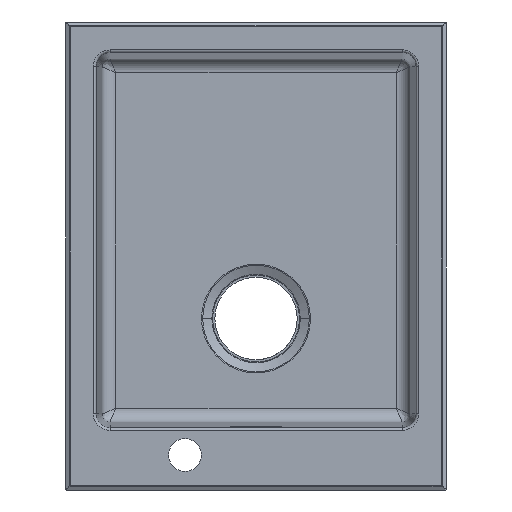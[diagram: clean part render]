
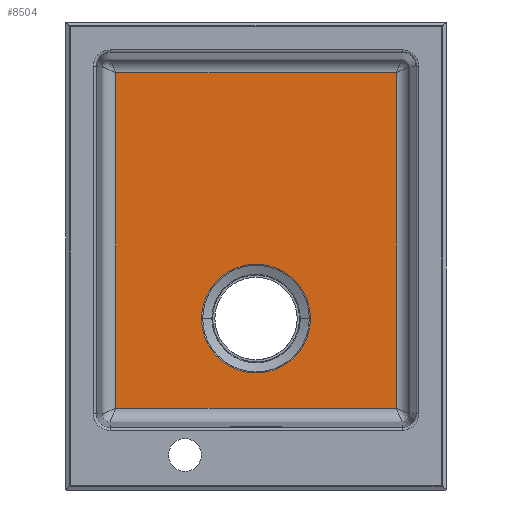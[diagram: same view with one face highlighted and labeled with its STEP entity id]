
A CAD part, top view. The second image highlights one B-rep face of the part: STEP entity #8504.
In plain terms, the highlighted planar face has unit normal (0, 0, 1).
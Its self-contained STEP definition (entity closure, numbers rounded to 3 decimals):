
#7619=CARTESIAN_POINT('Vertex',(-149.705,412.629,-194.1)) ;
#7807=CARTESIAN_POINT('Vertex',(149.705,412.629,-194.1)) ;
#7988=CARTESIAN_POINT('Vertex',(-149.705,54.219,-194.1)) ;
#8142=CARTESIAN_POINT('Vertex',(149.705,54.219,-194.1)) ;
#8256=CARTESIAN_POINT('Line Origine',(-149.705,233.424,-194.1)) ;
#8273=CARTESIAN_POINT('Line Origine',(0.,412.629,-194.1)) ;
#8290=CARTESIAN_POINT('Line Origine',(149.705,233.424,-194.1)) ;
#8307=CARTESIAN_POINT('Line Origine',(0.,54.219,-194.1)) ;
#8412=CARTESIAN_POINT('Axis2P3D Location',(-156.,32.924,-194.1)) ;
#8424=CARTESIAN_POINT('Control Point',(58.143,150.022,-194.1)) ;
#8425=CARTESIAN_POINT('Control Point',(58.143,149.448,-194.1)) ;
#8426=CARTESIAN_POINT('Control Point',(58.136,148.877,-194.1)) ;
#8427=CARTESIAN_POINT('Control Point',(58.122,148.302,-194.1)) ;
#8428=CARTESIAN_POINT('Control Point',(58.007,145.197,-194.1)) ;
#8429=CARTESIAN_POINT('Control Point',(57.685,142.101,-194.1)) ;
#8430=CARTESIAN_POINT('Control Point',(57.284,139.594,-194.1)) ;
#8431=CARTESIAN_POINT('Control Point',(56.091,134.072,-194.1)) ;
#8432=CARTESIAN_POINT('Control Point',(54.238,128.731,-194.1)) ;
#8433=CARTESIAN_POINT('Control Point',(53.023,125.862,-194.1)) ;
#8434=CARTESIAN_POINT('Control Point',(49.071,118.037,-194.1)) ;
#8435=CARTESIAN_POINT('Control Point',(43.703,111.05,-194.1)) ;
#8436=CARTESIAN_POINT('Control Point',(39.71,106.988,-194.1)) ;
#8437=CARTESIAN_POINT('Control Point',(30.816,99.912,-194.1)) ;
#8438=CARTESIAN_POINT('Control Point',(20.488,95.168,-194.1)) ;
#8439=CARTESIAN_POINT('Control Point',(15.061,93.436,-194.1)) ;
#8440=CARTESIAN_POINT('Control Point',(3.895,91.324,-194.1)) ;
#8441=CARTESIAN_POINT('Control Point',(-7.45,91.942,-194.1)) ;
#8442=CARTESIAN_POINT('Control Point',(-13.058,92.941,-194.1)) ;
#8443=CARTESIAN_POINT('Control Point',(-23.921,96.279,-194.1)) ;
#8444=CARTESIAN_POINT('Control Point',(-33.673,102.117,-194.1)) ;
#8445=CARTESIAN_POINT('Control Point',(-38.168,105.615,-194.1)) ;
#8446=CARTESIAN_POINT('Control Point',(-44.963,112.38,-194.1)) ;
#8447=CARTESIAN_POINT('Control Point',(-50.227,120.349,-194.1)) ;
#8448=CARTESIAN_POINT('Control Point',(-52.095,123.767,-194.1)) ;
#8449=CARTESIAN_POINT('Control Point',(-54.457,129.104,-194.1)) ;
#8450=CARTESIAN_POINT('Control Point',(-56.132,134.68,-194.1)) ;
#8451=CARTESIAN_POINT('Control Point',(-56.613,136.561,-194.1)) ;
#8452=CARTESIAN_POINT('Control Point',(-57.215,139.409,-194.1)) ;
#8453=CARTESIAN_POINT('Control Point',(-57.638,142.287,-194.1)) ;
#8454=CARTESIAN_POINT('Control Point',(-57.759,143.249,-194.1)) ;
#8455=CARTESIAN_POINT('Control Point',(-57.961,145.178,-194.1)) ;
#8456=CARTESIAN_POINT('Control Point',(-58.082,147.114,-194.1)) ;
#8457=CARTESIAN_POINT('Control Point',(-58.123,148.082,-194.1)) ;
#8458=CARTESIAN_POINT('Control Point',(-58.143,149.052,-194.1)) ;
#8459=CARTESIAN_POINT('Control Point',(-58.143,150.022,-194.1)) ;
#8460=CARTESIAN_POINT('Vertex',(-58.143,150.022,-194.1)) ;
#8462=CARTESIAN_POINT('Vertex',(58.143,150.022,-194.1)) ;
#8466=CARTESIAN_POINT('Control Point',(58.143,150.022,-194.1)) ;
#8467=CARTESIAN_POINT('Control Point',(58.143,151.527,-194.1)) ;
#8468=CARTESIAN_POINT('Control Point',(58.095,153.033,-194.1)) ;
#8469=CARTESIAN_POINT('Control Point',(57.997,154.535,-194.1)) ;
#8470=CARTESIAN_POINT('Control Point',(57.705,157.532,-194.1)) ;
#8471=CARTESIAN_POINT('Control Point',(57.22,160.504,-194.1)) ;
#8472=CARTESIAN_POINT('Control Point',(56.929,161.981,-194.1)) ;
#8473=CARTESIAN_POINT('Control Point',(55.915,166.383,-194.1)) ;
#8474=CARTESIAN_POINT('Control Point',(54.477,170.672,-194.1)) ;
#8475=CARTESIAN_POINT('Control Point',(53.335,173.465,-194.1)) ;
#8476=CARTESIAN_POINT('Control Point',(49.541,181.259,-194.1)) ;
#8477=CARTESIAN_POINT('Control Point',(44.35,188.256,-194.1)) ;
#8478=CARTESIAN_POINT('Control Point',(40.425,192.385,-194.1)) ;
#8479=CARTESIAN_POINT('Control Point',(31.651,199.608,-194.1)) ;
#8480=CARTESIAN_POINT('Control Point',(21.404,204.525,-194.1)) ;
#8481=CARTESIAN_POINT('Control Point',(16.007,206.347,-194.1)) ;
#8482=CARTESIAN_POINT('Control Point',(4.878,208.646,-194.1)) ;
#8483=CARTESIAN_POINT('Control Point',(-6.476,208.219,-194.1)) ;
#8484=CARTESIAN_POINT('Control Point',(-12.1,207.314,-194.1)) ;
#8485=CARTESIAN_POINT('Control Point',(-23.017,204.159,-194.1)) ;
#8486=CARTESIAN_POINT('Control Point',(-32.866,198.485,-194.1)) ;
#8487=CARTESIAN_POINT('Control Point',(-37.419,195.062,-194.1)) ;
#8488=CARTESIAN_POINT('Control Point',(-44.397,188.344,-194.1)) ;
#8489=CARTESIAN_POINT('Control Point',(-49.833,180.371,-194.1)) ;
#8490=CARTESIAN_POINT('Control Point',(-51.793,176.89,-194.1)) ;
#8491=CARTESIAN_POINT('Control Point',(-54.272,171.444,-194.1)) ;
#8492=CARTESIAN_POINT('Control Point',(-56.031,165.741,-194.1)) ;
#8493=CARTESIAN_POINT('Control Point',(-56.535,163.816,-194.1)) ;
#8494=CARTESIAN_POINT('Control Point',(-57.379,159.927,-194.1)) ;
#8495=CARTESIAN_POINT('Control Point',(-57.888,155.981,-194.1)) ;
#8496=CARTESIAN_POINT('Control Point',(-58.059,153.999,-194.1)) ;
#8497=CARTESIAN_POINT('Control Point',(-58.143,152.01,-194.1)) ;
#8498=CARTESIAN_POINT('Control Point',(-58.143,150.022,-194.1)) ;
#8257=DIRECTION('Vector Direction',(0.,-1.,0.)) ;
#8274=DIRECTION('Vector Direction',(-1.,0.,0.)) ;
#8291=DIRECTION('Vector Direction',(0.,1.,0.)) ;
#8308=DIRECTION('Vector Direction',(1.,0.,0.)) ;
#8413=DIRECTION('Axis2P3D Direction',(0.,-0.,-1.)) ;
#8414=DIRECTION('Axis2P3D XDirection',(1.,0.,-0.)) ;
#8415=AXIS2_PLACEMENT_3D('Plane Axis2P3D',#8412,#8413,#8414) ;
#8418=ORIENTED_EDGE('',*,*,#8311,.F.) ;
#8419=ORIENTED_EDGE('',*,*,#8294,.F.) ;
#8420=ORIENTED_EDGE('',*,*,#8277,.F.) ;
#8421=ORIENTED_EDGE('',*,*,#8260,.F.) ;
#8501=ORIENTED_EDGE('',*,*,#8464,.F.) ;
#8502=ORIENTED_EDGE('',*,*,#8499,.F.) ;
#8503=FACE_BOUND('',#8500,.T.) ;
#8258=VECTOR('Line Direction',#8257,1.) ;
#8275=VECTOR('Line Direction',#8274,1.) ;
#8292=VECTOR('Line Direction',#8291,1.) ;
#8309=VECTOR('Line Direction',#8308,1.) ;
#8504=ADVANCED_FACE('PartBody',(#8422,#8503),#8416,.F.) ;
#8423=B_SPLINE_CURVE_WITH_KNOTS('',5,(#8424,#8425,#8426,#8427,#8428,#8429,#8430,#8431,#8432,#8433,#8434,#8435,#8436,#8437,#8438,#8439,#8440,#8441,#8442,#8443,#8444,#8445,#8446,#8447,#8448,#8449,#8450,#8451,#8452,#8453,#8454,#8455,#8456,#8457,#8458,#8459),.UNSPECIFIED.,.F.,.U.,(6,3,3,3,3,3,3,3,3,3,3,6),(89.61,93.469,110.528,131.446,169.419,207.398,245.377,283.351,309.458,322.512,329.039,335.566),.UNSPECIFIED.) ;
#8465=B_SPLINE_CURVE_WITH_KNOTS('',5,(#8466,#8467,#8468,#8469,#8470,#8471,#8472,#8473,#8474,#8475,#8476,#8477,#8478,#8479,#8480,#8481,#8482,#8483,#8484,#8485,#8486,#8487,#8488,#8489,#8490,#8491,#8492,#8493,#8494,#8495,#8496,#8497,#8498),.UNSPECIFIED.,.F.,.U.,(6,3,3,3,3,3,3,3,3,3,6),(85.342,95.473,105.604,125.865,163.841,201.817,239.797,277.771,304.535,317.917,331.299),.UNSPECIFIED.) ;
#8260=EDGE_CURVE('',#7989,#7620,#8259,.F.) ;
#8277=EDGE_CURVE('',#7620,#7808,#8276,.F.) ;
#8294=EDGE_CURVE('',#7808,#8143,#8293,.F.) ;
#8311=EDGE_CURVE('',#8143,#7989,#8310,.F.) ;
#8464=EDGE_CURVE('',#8461,#8463,#8423,.F.) ;
#8499=EDGE_CURVE('',#8463,#8461,#8465,.T.) ;
#8417=EDGE_LOOP('',(#8418,#8419,#8420,#8421)) ;
#8500=EDGE_LOOP('',(#8501,#8502)) ;
#8422=FACE_OUTER_BOUND('',#8417,.T.) ;
#8259=LINE('Line',#8256,#8258) ;
#8276=LINE('Line',#8273,#8275) ;
#8293=LINE('Line',#8290,#8292) ;
#8310=LINE('Line',#8307,#8309) ;
#8416=PLANE('',#8415) ;
#7620=VERTEX_POINT('',#7619) ;
#7808=VERTEX_POINT('',#7807) ;
#7989=VERTEX_POINT('',#7988) ;
#8143=VERTEX_POINT('',#8142) ;
#8461=VERTEX_POINT('',#8460) ;
#8463=VERTEX_POINT('',#8462) ;
